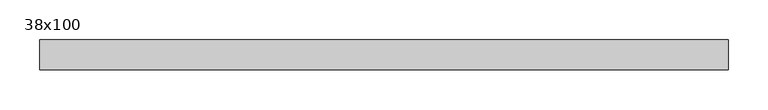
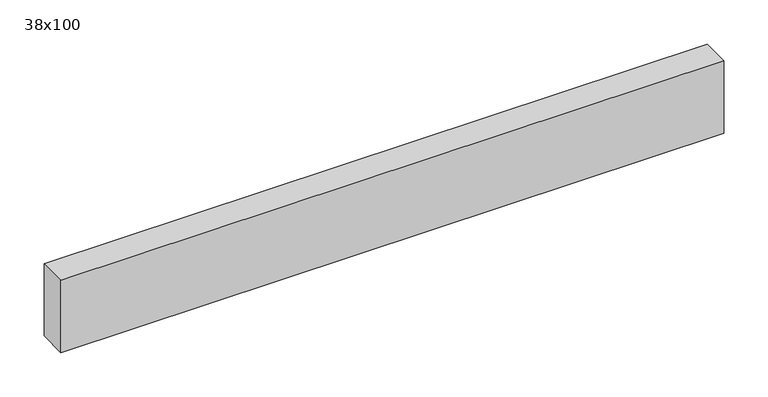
"""IFC4 building model written with IfcOpenShell, lengths in millimetres: beam geometry, Poutre - Bois de construction de dimensions courantes : 38x100."""

import ifcopenshell
import ifcopenshell.guid

model = None  # the IFC model being written
_history = None  # IfcOwnerHistory: only IFC2X3 demands one
_inside = {}  # id of a spatial element -> (the spatial element, [elements in it])
_under = {}  # id of a project, library or spatial element -> (it, [spatial elements below it])
_declared = {}  # id of a project -> (the project, [libraries it declares])
_typed = {}  # id of a type object -> (the type object, [elements of that type])
_made_of = {}  # id of a material, layer set ... -> (it, [elements and type objects made of it])


def new_model(schema):
    """Start an empty IFC model of exactly this schema.

    Asked for "IFC4X3", IfcOpenShell would pick the latest addendum, in which some entities
    have other attributes; the version numbers below select the first issue.
    IFC2X3 requires an IfcOwnerHistory on every rooted entity: one is made here for all.
    """
    global model, _history
    if schema == "IFC4X3":
        model = ifcopenshell.file(schema_version=(4, 3, 0, 0))
    else:
        model = ifcopenshell.file(schema=schema)
    _inside.clear()
    _under.clear()
    _declared.clear()
    _typed.clear()
    _made_of.clear()
    _history = None
    if model.schema == "IFC2X3":
        org = make("IfcOrganization", Name="unknown")
        user = make(
            "IfcPersonAndOrganization",
            ThePerson=make("IfcPerson", FamilyName="unknown"),
            TheOrganization=org,
        )
        app = make(
            "IfcApplication",
            ApplicationDeveloper=org,
            Version="unknown",
            ApplicationFullName="unknown",
            ApplicationIdentifier="unknown",
        )
        _history = make(
            "IfcOwnerHistory",
            OwningUser=user,
            OwningApplication=app,
            ChangeAction="ADDED",
            CreationDate=0,
        )
    return model


def make(cls, **values):
    """One entity of the class cls with the attributes given. An attribute that is None is left unset."""
    return model.create_entity(
        cls, **{name: value for name, value in values.items() if value is not None}
    )


def rooted(cls, **values):
    """An entity with a GlobalId (a new one), such as an element, a storey or a relation."""
    return make(cls, GlobalId=ifcopenshell.guid.new(), OwnerHistory=_history, **values)


def si_unit(unit_type, name, prefix=None):
    """IfcSIUnit, for example si_unit("LENGTHUNIT", "METRE", prefix="MILLI")."""
    return make("IfcSIUnit", UnitType=unit_type, Prefix=prefix, Name=name)


def assignment(units):
    """IfcUnitAssignment: the units of a project."""
    return None if units is None else make("IfcUnitAssignment", Units=units)


def point(xyz):
    """IfcCartesianPoint."""
    return None if xyz is None else make("IfcCartesianPoint", Coordinates=xyz)


def direction(xyz):
    """IfcDirection."""
    return None if xyz is None else make("IfcDirection", DirectionRatios=xyz)


def frame(location, z_axis=None, x_axis=None):
    """IfcAxis2Placement3D, a coordinate frame: its origin and axes. An axis left out is left unset."""
    return make(
        "IfcAxis2Placement3D",
        Location=point(location),
        Axis=direction(z_axis),
        RefDirection=direction(x_axis),
    )


def origin():
    """The frame at (0, 0, 0) with its axes left unset."""
    return frame((0.0, 0.0, 0.0))


def place(relative_to, where):
    """IfcLocalPlacement: puts the frame where relative to a parent placement (None: the world)."""
    return make(
        "IfcLocalPlacement", PlacementRelTo=relative_to, RelativePlacement=where
    )


def context(
    kind, dimensions, precision=None, world=None, true_north=None, identifier=None
):
    """IfcGeometricRepresentationContext, for example the 3D "Model" context."""
    return make(
        "IfcGeometricRepresentationContext",
        ContextIdentifier=identifier,
        ContextType=kind,
        CoordinateSpaceDimension=dimensions,
        Precision=precision,
        WorldCoordinateSystem=world,
        TrueNorth=true_north,
    )


def project(units=None, contexts=None):
    """IfcProject with its units and contexts."""
    return rooted(
        "IfcProject",
        Name="project",
        RepresentationContexts=contexts,
        UnitsInContext=assignment(units),
    )


def spatial(cls, under=None, at=None, **own):
    """A site, building, storey or space (cls), placed at a placement, below another one or the project."""
    s = rooted(cls, ObjectPlacement=at, **own)
    if under is not None:
        _under.setdefault(under.id(), (under, []))[1].append(s)
    return s


def polyline(points):
    """IfcPolyline through the points."""
    return make("IfcPolyline", Points=[point(p) for p in points])


def outline(outer, holes=None, kind="AREA"):
    """IfcArbitraryClosedProfileDef: a profile drawn as a closed curve; with holes, ...WithVoids."""
    if holes is None:
        return make("IfcArbitraryClosedProfileDef", ProfileType=kind, OuterCurve=outer)
    return make(
        "IfcArbitraryProfileDefWithVoids",
        ProfileType=kind,
        OuterCurve=outer,
        InnerCurves=holes,
    )


def extrude(swept, where, along, depth):
    """IfcExtrudedAreaSolid: the profile swept, set in the frame where, extruded along a direction by depth."""
    return make(
        "IfcExtrudedAreaSolid",
        SweptArea=swept,
        Position=where,
        ExtrudedDirection=direction(along),
        Depth=depth,
    )


def shape(context_of_items, identifier, shape_type, items):
    """IfcShapeRepresentation: the items that make up one representation, for example the "Body"."""
    return make(
        "IfcShapeRepresentation",
        ContextOfItems=context_of_items,
        RepresentationIdentifier=identifier,
        RepresentationType=shape_type,
        Items=items,
    )


def source(mapping_origin, context_of_items, identifier, shape_type, items):
    """IfcRepresentationMap: a shape defined once, which mapped items show again and again."""
    return make(
        "IfcRepresentationMap",
        MappingOrigin=mapping_origin,
        MappedRepresentation=shape(context_of_items, identifier, shape_type, items),
    )


def transform(
    local_origin,
    x_axis=None,
    y_axis=None,
    z_axis=None,
    scale=None,
    scale2=None,
    scale3=None,
    uniform=True,
):
    """IfcCartesianTransformationOperator3D, or its non-uniform kind. x_axis, y_axis, z_axis: its Axis1, 2, 3."""
    if uniform:
        return make(
            "IfcCartesianTransformationOperator3D",
            Axis1=direction(x_axis),
            Axis2=direction(y_axis),
            LocalOrigin=point(local_origin),
            Scale=scale,
            Axis3=direction(z_axis),
        )
    return make(
        "IfcCartesianTransformationOperator3DnonUniform",
        Axis1=direction(x_axis),
        Axis2=direction(y_axis),
        LocalOrigin=point(local_origin),
        Scale=scale,
        Axis3=direction(z_axis),
        Scale2=scale2,
        Scale3=scale3,
    )


def mapped(mapping_source, mapping_target):
    """IfcMappedItem: shows the shape of a source again, moved by a transform."""
    return make(
        "IfcMappedItem", MappingSource=mapping_source, MappingTarget=mapping_target
    )


def made_of(thing, what):
    """Note that an element or type object is made of a material, layer set ...; save() writes the relation."""
    if what is not None:
        _made_of.setdefault(what.id(), (what, []))[1].append(thing)
    return thing


def element(
    cls,
    number,
    at=None,
    inside=None,
    cuts=None,
    type_object=None,
    material=None,
    context=None,
    identifier="Body",
    shape_type=None,
    held_by="IfcProductDefinitionShape",
    body=None,
    shapes=None,
    **own,
):
    """One element of the class cls, such as IfcWall. Its Tag is "e" and its number.

    at: its placement. inside: the storey or other place that contains it. cuts: it is an
    opening in that element (IfcRelVoidsElement). A single representation is given by context,
    identifier, shape_type and body (its items); several are given by shapes. held_by: the class
    of the entity that holds the representations. save() writes the other relations.
    """
    e = rooted(cls, Tag="e%d" % number, ObjectPlacement=at, **own)
    if body is not None:
        shapes = [shape(context, identifier, shape_type, body)]
    if shapes is not None:
        e.Representation = make(held_by, Representations=shapes)
    if inside is not None:
        _inside.setdefault(inside.id(), (inside, []))[1].append(e)
    if cuts is not None:
        rooted(
            "IfcRelVoidsElement", RelatingBuildingElement=cuts, RelatedOpeningElement=e
        )
    if type_object is not None:
        _typed.setdefault(type_object.id(), (type_object, []))[1].append(e)
    return made_of(e, material)


def aggregate(whole, parts):
    """IfcRelAggregates: a whole, such as a stair, and the parts it consists of."""
    return rooted("IfcRelAggregates", RelatingObject=whole, RelatedObjects=parts)


def save(model, path):
    """Write the relations noted so far, then the file.

    IfcRelAggregates (storeys below a building ...), IfcRelContainedInSpatialStructure (elements
    in a storey), IfcRelDefinesByType, IfcRelAssociatesMaterial and IfcRelDeclares: one each for
    every whole, place, type object, material and project.
    """
    for whole, parts in _under.values():
        aggregate(whole, parts)
    for where, things in _inside.values():
        rooted(
            "IfcRelContainedInSpatialStructure",
            RelatedElements=things,
            RelatingStructure=where,
        )
    for kind, things in _typed.values():
        rooted("IfcRelDefinesByType", RelatedObjects=things, RelatingType=kind)
    for what, things in _made_of.values():
        rooted("IfcRelAssociatesMaterial", RelatedObjects=things, RelatingMaterial=what)
    for by, libraries in _declared.values():
        rooted("IfcRelDeclares", RelatingContext=by, RelatedDefinitions=libraries)
    model.write(path)


def beam_38x100_4240b00c(model_context):
    return source(origin(), model_context, "Body", "SweptSolid", [
        extrude(outline(polyline([(306.0, 19.05), (306.0, -19.05), (-561.0, -19.05), (-561.0, 19.05), (306.0, 19.05)])), frame((0.0, 0.0, -50.0), z_axis=(0.0, 0.0, 1.0), x_axis=(1.0, 0.0, 0.0)), (0.0, 0.0, 1.0), 100.0),
    ])


if __name__ == "__main__":
    model = new_model("IFC4")
    model_context = context("Model", 3, world=origin())
    ifc_project = project(units=[si_unit("LENGTHUNIT", "METRE", prefix="MILLI")], contexts=[model_context])
    site = spatial("IfcSite", under=ifc_project)
    building = spatial("IfcBuilding", under=site)
    placement = place(None, origin())
    beam_38x100_shape = beam_38x100_4240b00c(model_context)
    element("IfcBeam", 1, ObjectType="Poutre - Bois de construction de dimensions courantes : 38x100", at=placement, inside=building, context=model_context, shape_type="MappedRepresentation", body=[
        mapped(beam_38x100_shape, transform((0.0, 0.0, 0.0), x_axis=(1.0, 0.0, 0.0), y_axis=(0.0, 1.0, 0.0), z_axis=(0.0, 0.0, 1.0))),
    ])
    save(model, "model.ifc")
